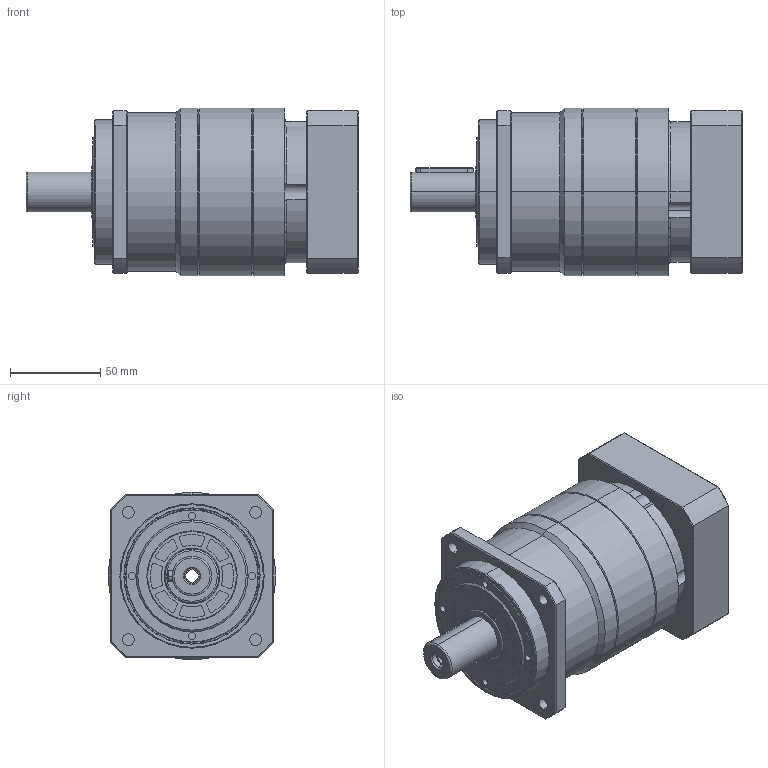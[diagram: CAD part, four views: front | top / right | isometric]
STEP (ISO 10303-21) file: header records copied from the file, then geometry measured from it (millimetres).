
FILE_DESCRIPTION (( 'STEP AP203' ), '1' );
FILE_NAME ('KS90-10X5-80-19-48-M6-100.STEP', '2020-08-12T02:18:12', ( '微软用户' ), ( '微软中国' ), 'SwSTEP 2.0', 'SolidWorks 2008', '' );
FILE_SCHEMA (( 'CONFIG_CONTROL_DESIGN' ));
Length unit declared in the file: millimetre
Products named in the file (1): KS90-10X5-80-19-48-M6-100
Bounding box: 184 x 93 x 93 mm (x, y, z)
Surface area: 98657.6 mm2 (no closed solid volume)
Topology: 0 solids, 25 shells, 440 faces, 1376 edges, 928 vertices
Faces by surface type: plane 167, cylinder 160, cone 78, torus 35
Entity records: 15788 total; most frequent: CARTESIAN_POINT 3302, DIRECTION 2792, ORIENTED_EDGE 2287, EDGE_CURVE 1368, AXIS2_PLACEMENT_3D 1084, VERTEX_POINT 928, CIRCLE 643, LINE 624
